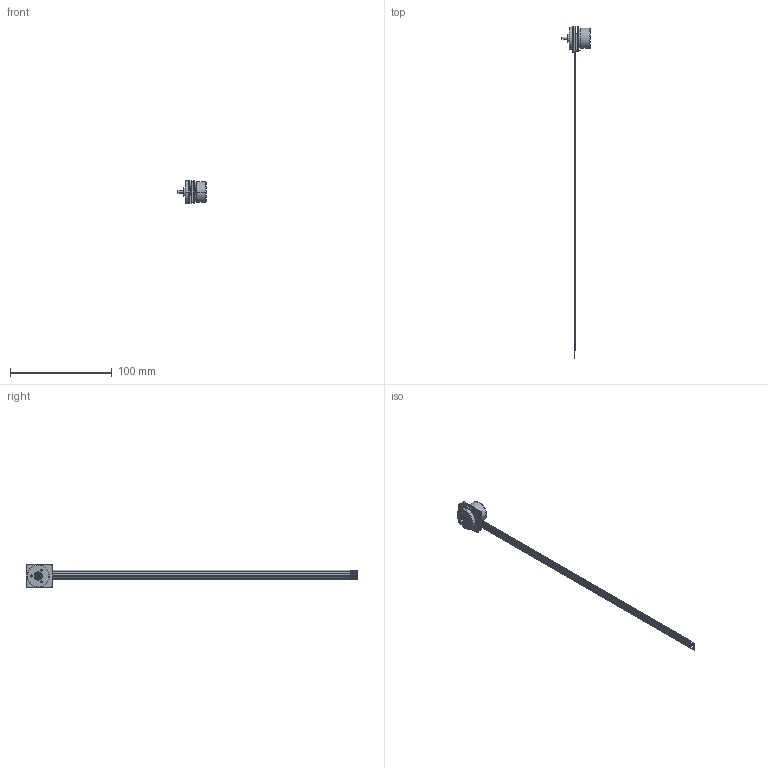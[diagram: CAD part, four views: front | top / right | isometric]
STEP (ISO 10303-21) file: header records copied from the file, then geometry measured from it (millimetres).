
FILE_DESCRIPTION((''),'2;1');
FILE_NAME('1135066','2010-03-11T',('MMAGBRD'),(''),'PRO/ENGINEER BY PARAMETRIC TECHNOLOGY CORPORATION, 2009230','PRO/ENGINEER BY PARAMETRIC TECHNOLOGY CORPORATION, 2009230','');
FILE_SCHEMA(('CONFIG_CONTROL_DESIGN'));
Length unit declared in the file: millimetre
Products named in the file (1): 1135066
Bounding box: 28.5 x 325.5 x 23 mm (x, y, z)
Volume: 9034.9 mm3; surface area: 7950.4 mm2
Topology: 1 solids, 4 shells, 141 faces, 314 edges, 201 vertices
Faces by surface type: cylinder 74, plane 49, torus 12, cone 6
Entity records: 4004 total; most frequent: DIRECTION 758, CARTESIAN_POINT 699, ORIENTED_EDGE 604, AXIS2_PLACEMENT_3D 314, EDGE_CURVE 308, VERTEX_POINT 201, EDGE_LOOP 173, CIRCLE 172
